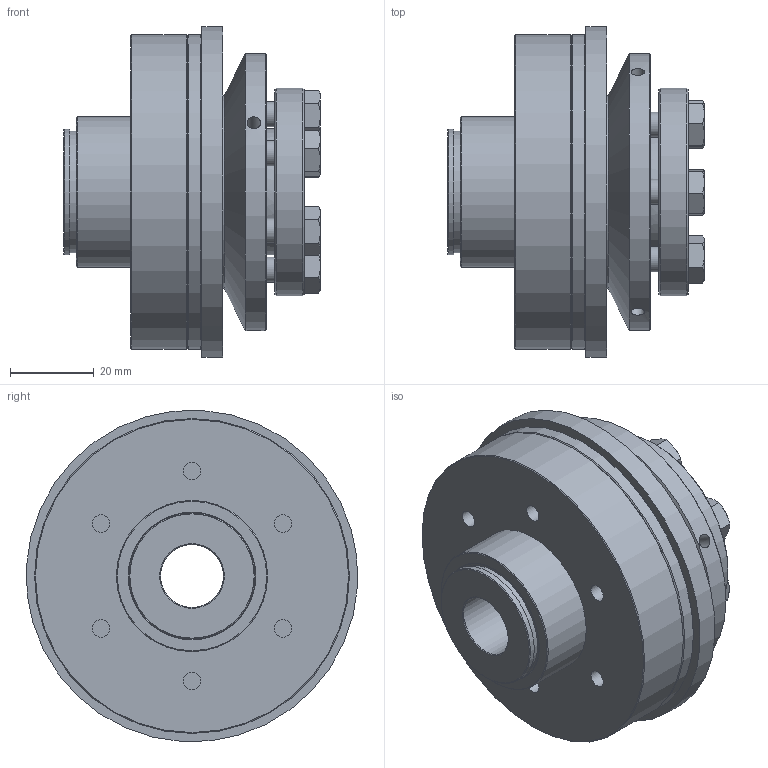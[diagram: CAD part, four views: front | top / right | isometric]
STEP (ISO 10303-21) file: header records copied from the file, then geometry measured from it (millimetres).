
FILE_DESCRIPTION( ( 'Unknown' ), '1' );
FILE_NAME( 'C:/Users/TWalzel/Documents/CAD-Daten/KBK-CI/60/KBK C-I-60.stp', 'Unknown', ( 'Unknown' ), ( 'Unknown' ), 'PSStep 16.0.42', 'Unknown', ' ' );
FILE_SCHEMA( ( 'AUTOMOTIVE_DESIGN { 1 0 10303 214 1 1 1 1 }' ) );
Length unit declared in the file: millimetre
Products named in the file (11): din_en_24017_m6x20; Druckring 60; Stellring 60; Konusbuchse 60; Assem1; Grundkörper C-I-60_1; Flansch-Gleitlager CK-60
Assembly tree (15 placements, depth 3):
  Assem1
    Grundkörper C-I-60_1
    Flansch-Gleitlager CK-60
    Konusbuchse 60
      Konusbuchse 60
    Stellring 60
      Stellring 60
    Druckring 60
      Druckring 60
    din_en_24017_m6x20  x6
      din_en_24017_m6x20
Bounding box: 61.14 x 78.83 x 78.83 mm (x, y, z)
Volume: 145095.5 mm3; surface area: 61271.5 mm2
Topology: 11 solids, 11 shells, 255 faces, 529 edges, 334 vertices
Faces by surface type: plane 112, cone 73, cylinder 62, torus 8
Full cylindrical faces by diameter (mm): 3.242 x3, 4 x3, 4.134 x12, 4.917 x9, 6 x6, 6.6 x6, 8.8 x6, 15 x2, 29 x1, 30 x3, 30.2 x1, 36 x1, 46 x2, 46.5 x1, 49.5 x1, 61.3 x1, 66 x1, 75 x2, 79 x1
Entity records: 5188 total; most frequent: CARTESIAN_POINT 943, DIRECTION 666, ORIENTED_EDGE 424, AXIS2_PLACEMENT_3D 315, EDGE_LOOP 276, EDGE_CURVE 212, FACE_OUTER_BOUND 200, VERTEX_POINT 176
